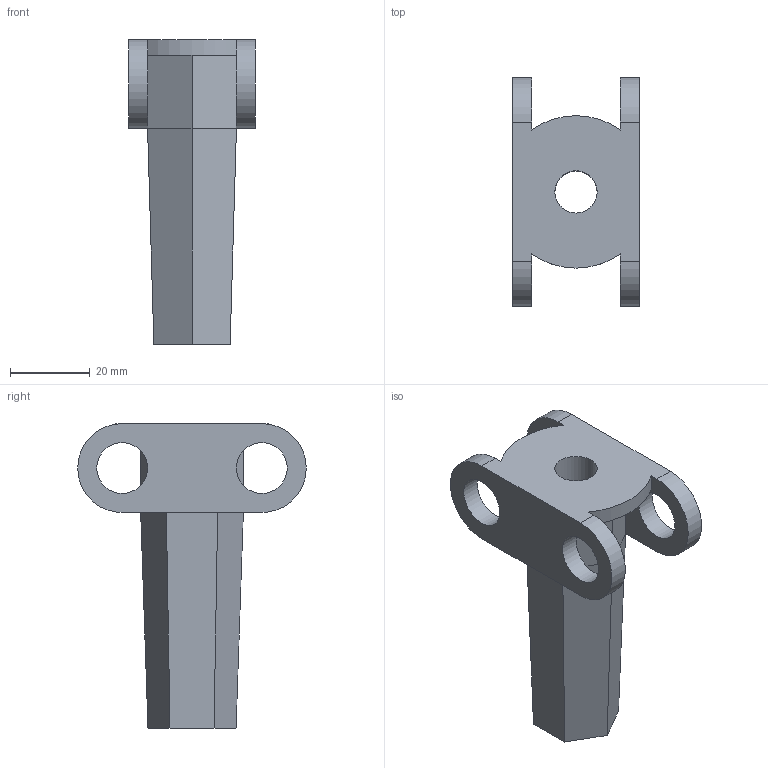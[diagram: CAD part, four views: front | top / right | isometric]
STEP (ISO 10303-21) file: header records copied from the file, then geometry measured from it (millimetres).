
FILE_DESCRIPTION(/* description */ (''),/* implementation_level */ '2;1');
FILE_NAME(/* name */ 'C:\001_Work\Designs\HPA\HPA-0500.stp',/* time_stamp */ '2015-10-20T08:54:27-04:00',/* author */ ('rramoutar'),/* organization */ (''),/* preprocessor_version */ 'ST-DEVELOPER v15.6',/* originating_system */ 'Autodesk Inventor 2015',/* authorisation */ '');
FILE_SCHEMA (('AUTOMOTIVE_DESIGN { 1 0 10303 214 3 1 1 }'));
Length unit declared in the file: inch
Products named in the file (1): A-24732-2 HPA-0500
Bounding box: 31.75 x 57.15 x 76.2 mm (x, y, z)
Volume: 32877.5 mm3; surface area: 13843 mm2
Topology: 1 solids, 1 shells, 33 faces, 84 edges, 53 vertices
Faces by surface type: plane 22, cylinder 11
Full cylindrical faces by diameter (mm): 10.592 x1, 12.7 x4
Entity records: 1000 total; most frequent: DIRECTION 168, CARTESIAN_POINT 164, ORIENTED_EDGE 156, EDGE_CURVE 78, LINE 56, VECTOR 56, AXIS2_PLACEMENT_3D 56, VERTEX_POINT 52
